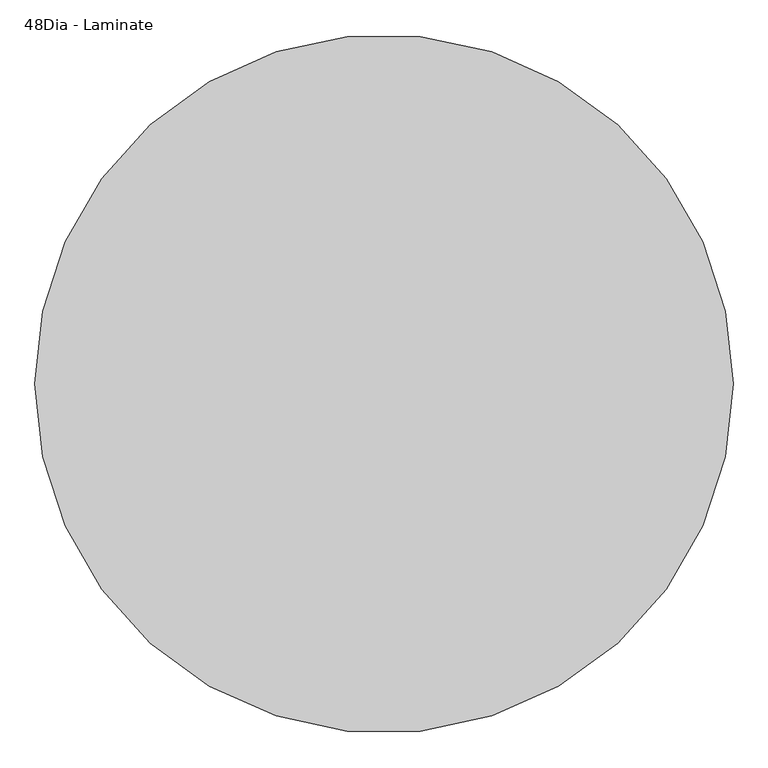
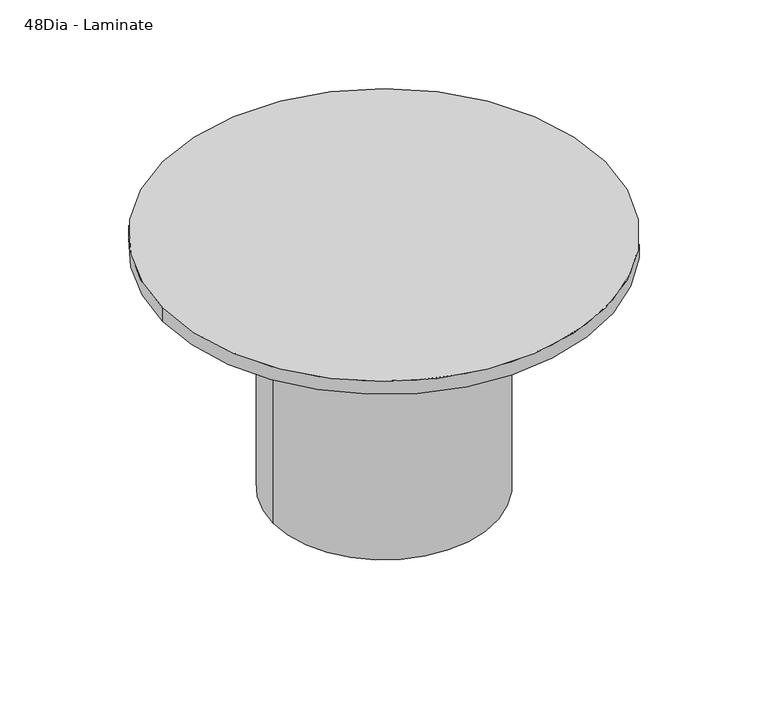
"""IFC4 building model written with IfcOpenShell, lengths in millimetres: furniture geometry, Coalesse_AM_Table_Conference_ETable2_Round : 48Dia - Laminate."""

from ifc_helpers import new_model, si_unit, point, frame, origin, origin_with_axes, origin_2d, place, context, project, spatial, circle_curve, trimmed, segment, composite_curve, outline, extrude, source, transform, mapped, element, save


def furniture_48dia_laminate_7345cb1a(model_context):
    return source(origin(), model_context, "Body", "SweptSolid", [
        extrude(outline(composite_curve([segment(trimmed(circle_curve(origin_2d(), 609.6), [point((-609.6, 0.0))], [point((609.6, 0.0))], False, "CARTESIAN"), True, "CONTINUOUS"), segment(trimmed(circle_curve(origin_2d(), 609.6), [point((609.6, 0.0))], [point((-609.6, 0.0))], False, "CARTESIAN"), True, "CONTINUOUS")], self_intersect=False)), frame((0.0, 0.0, 698.5), z_axis=(0.0, 0.0, 1.0), x_axis=(1.0, 0.0, 0.0)), (0.0, 0.0, 1.0), 38.1),
        extrude(outline(composite_curve([segment(trimmed(circle_curve(origin_2d(), 228.6), [point((-228.6, 0.0))], [point((228.6, 0.0))], False, "CARTESIAN"), True, "CONTINUOUS"), segment(trimmed(circle_curve(origin_2d(), 228.6), [point((228.6, 0.0))], [point((-228.6, 0.0))], False, "CARTESIAN"), True, "CONTINUOUS")], self_intersect=False)), origin_with_axes(), (0.0, 0.0, 1.0), 3.175),
        extrude(outline(composite_curve([segment(trimmed(circle_curve(origin_2d(), 304.8), [point((-304.8, 0.0))], [point((304.8, 0.0))], False, "CARTESIAN"), True, "CONTINUOUS"), segment(trimmed(circle_curve(origin_2d(), 304.8), [point((304.8, 0.0))], [point((-304.8, 0.0))], False, "CARTESIAN"), True, "CONTINUOUS")], self_intersect=False), holes=[composite_curve([segment(trimmed(circle_curve(origin_2d(), 158.75), [point((-158.75, 0.0))], [point((158.75, 0.0))], True, "CARTESIAN"), True, "CONTINUOUS"), segment(trimmed(circle_curve(origin_2d(), 158.75), [point((158.75, 0.0))], [point((-158.75, 0.0))], True, "CARTESIAN"), True, "CONTINUOUS")], self_intersect=False)]), frame((0.0, 0.0, 3.175), z_axis=(0.0, 0.0, 1.0), x_axis=(1.0, 0.0, 0.0)), (0.0, 0.0, 1.0), 695.325),
    ])


if __name__ == "__main__":
    model = new_model("IFC4")
    model_context = context("Model", 3, world=origin())
    ifc_project = project(units=[si_unit("LENGTHUNIT", "METRE", prefix="MILLI")], contexts=[model_context])
    site = spatial("IfcSite", under=ifc_project)
    building = spatial("IfcBuilding", under=site)
    placement = place(None, origin())
    furniture_48dia_laminate_shape = furniture_48dia_laminate_7345cb1a(model_context)
    element("IfcFurniture", 1, ObjectType="Coalesse_AM_Table_Conference_ETable2_Round : 48Dia - Laminate", at=placement, inside=building, context=model_context, shape_type="MappedRepresentation", body=[
        mapped(furniture_48dia_laminate_shape, transform((0.0, 0.0, 0.0), x_axis=(1.0, 0.0, 0.0), y_axis=(0.0, 1.0, 0.0), z_axis=(0.0, 0.0, 1.0))),
    ])
    save(model, "model.ifc")
